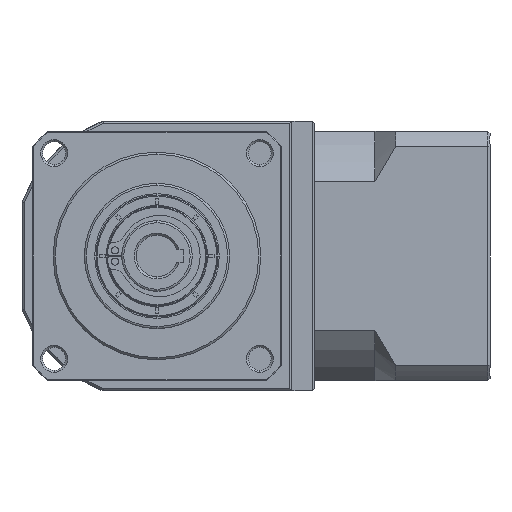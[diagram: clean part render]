
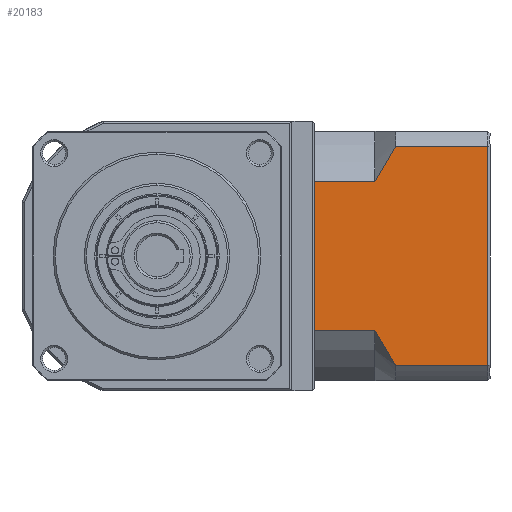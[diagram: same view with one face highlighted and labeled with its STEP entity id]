
A CAD part, left-side view. The second image highlights one B-rep face of the part: STEP entity #20183.
In plain terms, the highlighted planar face has unit normal (-1, 0, 0).
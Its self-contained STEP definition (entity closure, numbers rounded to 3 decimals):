
#613 = EDGE_CURVE ( 'NONE', #27898, #25847, #31944, .T. ) ;
#1428 = VECTOR ( 'NONE', #46841, 1000. ) ;
#3420 = VECTOR ( 'NONE', #57103, 1000. ) ;
#4859 = CARTESIAN_POINT ( 'NONE',  ( -26.181, -76.469, -103.546 ) ) ;
#10262 = CARTESIAN_POINT ( 'NONE',  ( -26.181, -76.469, -145.367 ) ) ;
#11305 = CARTESIAN_POINT ( 'NONE',  ( -26.181, -74.918, -106.429 ) ) ;
#16594 = CARTESIAN_POINT ( 'NONE',  ( -26.181, -74.918, -106.429 ) ) ;
#17592 = FACE_OUTER_BOUND ( 'NONE', #130921, .T. ) ;
#18233 = VECTOR ( 'NONE', #151290, 1000. ) ;
#20183 = ADVANCED_FACE ( 'NONE', ( #17592 ), #75369, .F. ) ;
#22013 = CARTESIAN_POINT ( 'NONE',  ( -26.181, -79.017, -149.552 ) ) ;
#23995 = CARTESIAN_POINT ( 'NONE',  ( -26.181, -74.918, -106.429 ) ) ;
#25847 = VERTEX_POINT ( 'NONE', #134932 ) ;
#27898 = VERTEX_POINT ( 'NONE', #31845 ) ;
#29990 = VERTEX_POINT ( 'NONE', #102837 ) ;
#30703 = CARTESIAN_POINT ( 'NONE',  ( -26.181, -60.418, -142.485 ) ) ;
#31845 = CARTESIAN_POINT ( 'NONE',  ( -26.181, -79.918, -98. ) ) ;
#31944 = LINE ( 'NONE', #76568, #121817 ) ;
#31989 = VERTEX_POINT ( 'NONE', #105212 ) ;
#41977 = CARTESIAN_POINT ( 'NONE',  ( -26.181, -102.118, -150.915 ) ) ;
#46841 = DIRECTION ( 'NONE',  ( 0., 1., 0. ) ) ;
#47495 = VERTEX_POINT ( 'NONE', #23995 ) ;
#49432 = LINE ( 'NONE', #11305, #18233 ) ;
#49840 = LINE ( 'NONE', #89597, #77293 ) ;
#53082 = VERTEX_POINT ( 'NONE', #53862 ) ;
#53862 = CARTESIAN_POINT ( 'NONE',  ( -26.181, -74.918, -142.485 ) ) ;
#57103 = DIRECTION ( 'NONE',  ( 0., 0., -1. ) ) ;
#58853 = EDGE_CURVE ( 'NONE', #53082, #31989, #83168, .T. ) ;
#60090 = LINE ( 'NONE', #128779, #1428 ) ;
#60195 = VERTEX_POINT ( 'NONE', #30703 ) ;
#66354 = ORIENTED_EDGE ( 'NONE', *, *, #108293, .F. ) ;
#68712 = CARTESIAN_POINT ( 'NONE',  ( -26.181, -74.918, -142.485 ) ) ;
#68814 = ORIENTED_EDGE ( 'NONE', *, *, #71620, .T. ) ;
#70017 = ORIENTED_EDGE ( 'NONE', *, *, #613, .F. ) ;
#71555 = DIRECTION ( 'NONE',  ( 0., 1., 0. ) ) ;
#71620 = EDGE_CURVE ( 'NONE', #91879, #25847, #49840, .T. ) ;
#71896 = DIRECTION ( 'NONE',  ( 1., 0., 0. ) ) ;
#72076 = CARTESIAN_POINT ( 'NONE',  ( -26.181, -102.618, -154.457 ) ) ;
#72645 = EDGE_CURVE ( 'NONE', #29990, #47495, #49432, .T. ) ;
#75008 = CARTESIAN_POINT ( 'NONE',  ( -26.181, -78.145, -100.738 ) ) ;
#75369 = PLANE ( 'NONE',  #111872 ) ;
#75811 = DIRECTION ( 'NONE',  ( 0., -1., 0. ) ) ;
#76350 = EDGE_CURVE ( 'NONE', #29990, #60195, #127976, .T. ) ;
#76568 = CARTESIAN_POINT ( 'NONE',  ( -26.181, -74.918, -98. ) ) ;
#77183 = ORIENTED_EDGE ( 'NONE', *, *, #122855, .T. ) ;
#77212 = B_SPLINE_CURVE_WITH_KNOTS ( 'NONE', 3,
 ( #97684, #98195, #75008, #4859, #86852, #16594 ),
 .UNSPECIFIED., .F., .F.,
 ( 4, 2, 4 ),
 ( 0.052, 0.057, 0.062 ),
 .UNSPECIFIED. ) ;
#77293 = VECTOR ( 'NONE', #78232, 1000. ) ;
#78232 = DIRECTION ( 'NONE',  ( 0., 0., 1. ) ) ;
#78883 = CARTESIAN_POINT ( 'NONE',  ( -26.181, -74.918, -150.915 ) ) ;
#80581 = ORIENTED_EDGE ( 'NONE', *, *, #72645, .F. ) ;
#82005 = ORIENTED_EDGE ( 'NONE', *, *, #76350, .T. ) ;
#83168 = B_SPLINE_CURVE_WITH_KNOTS ( 'NONE', 3,
 ( #68712, #138641, #10262, #92312, #22013, #104131 ),
 .UNSPECIFIED., .F., .F.,
 ( 4, 2, 4 ),
 ( 0.1, 0.104, 0.109 ),
 .UNSPECIFIED. ) ;
#83462 = LINE ( 'NONE', #78883, #141850 ) ;
#84802 = ORIENTED_EDGE ( 'NONE', *, *, #140876, .F. ) ;
#85963 = ORIENTED_EDGE ( 'NONE', *, *, #58853, .T. ) ;
#86852 = CARTESIAN_POINT ( 'NONE',  ( -26.181, -75.666, -104.977 ) ) ;
#89597 = CARTESIAN_POINT ( 'NONE',  ( -26.181, -102.118, -154.457 ) ) ;
#91879 = VERTEX_POINT ( 'NONE', #41977 ) ;
#92312 = CARTESIAN_POINT ( 'NONE',  ( -26.181, -78.143, -148.172 ) ) ;
#97684 = CARTESIAN_POINT ( 'NONE',  ( -26.181, -79.918, -98. ) ) ;
#98195 = CARTESIAN_POINT ( 'NONE',  ( -26.181, -79.018, -99.36 ) ) ;
#102837 = CARTESIAN_POINT ( 'NONE',  ( -26.181, -60.418, -106.429 ) ) ;
#104131 = CARTESIAN_POINT ( 'NONE',  ( -26.181, -79.918, -150.915 ) ) ;
#105212 = CARTESIAN_POINT ( 'NONE',  ( -26.181, -79.918, -150.915 ) ) ;
#108293 = EDGE_CURVE ( 'NONE', #91879, #31989, #83462, .T. ) ;
#111872 = AXIS2_PLACEMENT_3D ( 'NONE', #72076, #71896, #71555 ) ;
#114302 = DIRECTION ( 'NONE',  ( 0., 1., 0. ) ) ;
#121817 = VECTOR ( 'NONE', #75811, 1000. ) ;
#122855 = EDGE_CURVE ( 'NONE', #27898, #47495, #77212, .T. ) ;
#127243 = CARTESIAN_POINT ( 'NONE',  ( -26.181, -60.418, -154.457 ) ) ;
#127976 = LINE ( 'NONE', #127243, #3420 ) ;
#128779 = CARTESIAN_POINT ( 'NONE',  ( -26.181, -74.918, -142.485 ) ) ;
#130921 = EDGE_LOOP ( 'NONE', ( #66354, #68814, #70017, #77183, #80581, #82005, #84802, #85963 ) ) ;
#134932 = CARTESIAN_POINT ( 'NONE',  ( -26.181, -102.118, -98. ) ) ;
#138641 = CARTESIAN_POINT ( 'NONE',  ( -26.181, -75.668, -143.941 ) ) ;
#140876 = EDGE_CURVE ( 'NONE', #53082, #60195, #60090, .T. ) ;
#141850 = VECTOR ( 'NONE', #114302, 1000. ) ;
#151290 = DIRECTION ( 'NONE',  ( 0., -1., 0. ) ) ;
